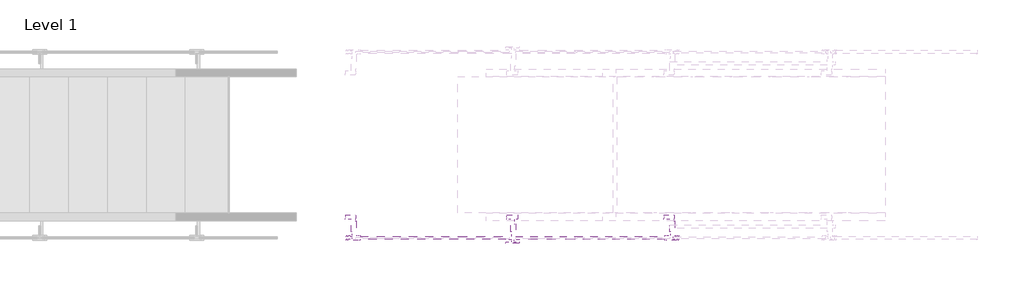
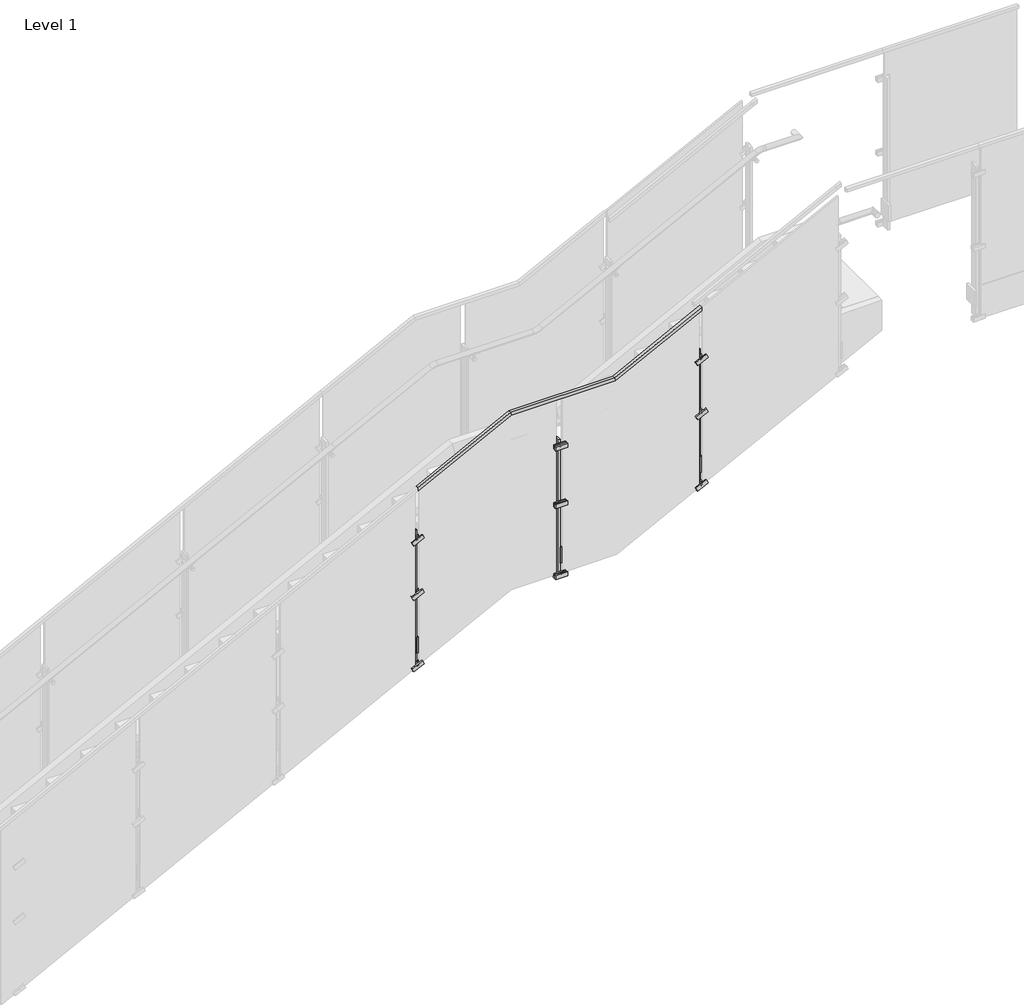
# One storey, part 33 of 37: 1 railing.
"""IFC4 building model written with IfcOpenShell, lengths in millimetres."""

from ifc_helpers import new_model, si_unit, point, frame, frame_2d, origin, place, context, project, spatial, polyline, circle_curve, trimmed, segment, composite_curve, outline, extrude, faceted_brep, element, save

model = new_model("IFC4")

# Units and contexts
model_context = context("Model", 3, world=origin())
ifc_project = project(units=[si_unit("LENGTHUNIT", "METRE", prefix="MILLI")], contexts=[model_context])

# Site, building, storey
site = spatial("IfcSite", under=ifc_project)
building = spatial("IfcBuilding", under=site)
storey = spatial("IfcBuildingStorey", under=building, Name="Level 1", Elevation=0.0)

# Railing
placement = place(None, origin())
element("IfcRailing", 1, ObjectType="VIVA-SOLO-Glass-Fascia Mount-Stair-A1-Landing", at=placement, inside=storey, context=model_context, shape_type="SolidModel", body=[
    faceted_brep([(4578.4721922, 32501.3406645, 2882.4016967), (4578.4721922, 32523.5656645, 2882.4016967), (4578.4721922, 32523.5656645, 2853.9005081), (4578.4721922, 32518.8031645, 2853.9005081), (4578.4721922, 32518.8031645, 2877.0577238), (4578.4721922, 32506.1031645, 2877.0577238), (4578.4721922, 32506.1031645, 2853.9005081), (4578.4721922, 32501.3406645, 2853.9005081), (5276.9721922, 32501.3406645, 3237.9478261), (5276.9721922, 32523.5656645, 3237.9478261), (5283.0647357, 32523.5656645, 3212.5478261), (5283.0647357, 32518.8031645, 3212.5478261), (5278.1145441, 32518.8031645, 3233.1853261), (5278.1145441, 32506.1031645, 3233.1853261), (5283.0647357, 32506.1031645, 3212.5478261), (5283.0647357, 32501.3406645, 3212.5478261), (6058.0221922, 32501.3406645, 3237.9478261), (6058.0221922, 32523.5656645, 3237.9478261), (6064.1147357, 32523.5656645, 3212.5478261), (6064.1147357, 32518.8031645, 3212.5478261), (6059.1645441, 32518.8031645, 3233.1853261), (6059.1645441, 32506.1031645, 3233.1853261), (6064.1147357, 32506.1031645, 3212.5478261), (6064.1147357, 32501.3406645, 3212.5478261), (6712.0721922, 32501.3406645, 3570.8682927), (6712.0721922, 32501.3406645, 3542.3671041), (6712.0721922, 32506.1031645, 3542.3671041), (6712.0721922, 32506.1031645, 3565.5243198), (6712.0721922, 32518.8031645, 3565.5243198), (6712.0721922, 32518.8031645, 3542.3671041), (6712.0721922, 32523.5656645, 3542.3671041), (6712.0721922, 32523.5656645, 3570.8682927)], [[[0, 1, 2, 3, 4, 5, 6, 7]], [[1, 0, 8, 9]], [[2, 1, 9, 10]], [[3, 2, 10, 11]], [[4, 3, 11, 12]], [[5, 4, 12, 13]], [[6, 5, 13, 14]], [[7, 6, 14, 15]], [[0, 7, 15, 8]], [[9, 8, 16, 17]], [[10, 9, 17, 18]], [[11, 10, 18, 19]], [[12, 11, 19, 20]], [[13, 12, 20, 21]], [[14, 13, 21, 22]], [[15, 14, 22, 23]], [[8, 15, 23, 16]], [[24, 25, 26, 27, 28, 29, 30, 31]], [[17, 16, 24, 31]], [[18, 17, 31, 30]], [[19, 18, 30, 29]], [[20, 19, 29, 28]], [[21, 20, 28, 27]], [[22, 21, 27, 26]], [[23, 22, 26, 25]], [[16, 23, 25, 24]]]),
    extrude(outline(composite_curve([segment(trimmed(circle_curve(frame_2d((0.0, -7.0)), 7.0), [point((0.0, -14.0))], [point((0.0, 0.0))], False, "CARTESIAN"), True, "CONTINUOUS"), segment(trimmed(circle_curve(frame_2d((0.0, -7.0)), 7.0), [point((0.0, 0.0))], [point((0.0, -14.0))], False, "CARTESIAN"), True, "CONTINUOUS")], self_intersect=False)), frame((5645.6746913, 32644.6306015, 2843.8026165), z_axis=(-0.007954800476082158, 0.0, 0.9999683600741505), x_axis=(-0.9999683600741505, 0.0, -0.007954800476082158)), (0.0, 0.0, 1.0), 51.0401258),
    extrude(outline(composite_curve([segment(trimmed(circle_curve(frame_2d((32652.9626305, 2916.7137449)), 19.05), [point((32639.4330423, 2903.3028261))], [point((32666.4922188, 2903.3028261))], True, "CARTESIAN"), True, "CONTINUOUS"), segment(polyline([(32666.4922188, 2903.3028261), (32667.5186084, 2902.285439)]), True, "CONTINUOUS"), segment(trimmed(circle_curve(frame_2d((32666.4626305, 2901.2201171)), 1.5), [point((32667.5186084, 2902.285439))], [point((32667.448032, 2900.0891954))], False, "CARTESIAN"), True, "CONTINUOUS"), segment(trimmed(circle_curve(frame_2d((32652.9626305, 2916.7137449)), 22.05), [point((32667.448032, 2900.0891954))], [point((32638.4772291, 2900.0891954))], False, "CARTESIAN"), True, "CONTINUOUS"), segment(trimmed(circle_curve(frame_2d((32639.4626305, 2901.2201171)), 1.5), [point((32638.4772291, 2900.0891954))], [point((32638.4066527, 2902.285439))], False, "CARTESIAN"), True, "CONTINUOUS"), segment(polyline([(32638.4066527, 2902.285439), (32639.4330423, 2903.3028261)]), True, "CONTINUOUS")], self_intersect=False)), frame((5606.576729, 0.0, 0.0), z_axis=(1.0, 0.0, 0.0), x_axis=(0.0, 1.0, 0.0)), (0.0, 0.0, 1.0), 74.5229187),
    extrude(outline(composite_curve([segment(trimmed(circle_curve(frame_2d((2858.2194241, 5645.3910269)), 12.5), [point((2858.2194241, 5657.8910269))], [point((2858.2194241, 5632.8910269))], False, "CARTESIAN"), True, "CONTINUOUS"), segment(trimmed(circle_curve(frame_2d((2858.2194241, 5645.3910269)), 12.5), [point((2858.2194241, 5632.8910269))], [point((2858.2194241, 5657.8910269))], False, "CARTESIAN"), True, "CONTINUOUS")], self_intersect=False)), frame((0.0, 32552.6082406, 0.0), z_axis=(0.0, 1.0, 0.0), x_axis=(0.0, 0.0, 1.0)), (0.0, 0.0, 1.0), 112.87),
    extrude(outline(polyline([(5665.1159422, 32507.8176645), (5651.6221922, 32507.8176645), (5651.6221922, 32607.8301645), (5665.1159422, 32607.8301645), (5665.1159422, 32507.8176645)])), frame((0.0, 0.0, 1904.4478261), z_axis=(0.0, 0.0, 1.0), x_axis=(1.0, 0.0, 0.0)), (0.0, 0.0, 1.0), 127.0),
    extrude(outline(polyline([(5651.6221922, 32507.8176645), (5638.9221922, 32507.8176645), (5638.9221922, 32571.3176645), (5651.6221922, 32571.3176645), (5651.6221922, 32507.8176645)])), frame((0.0, 0.0, 1809.5242307), z_axis=(0.0, 0.0, 1.0), x_axis=(1.0, 0.0, 0.0)), (0.0, 0.0, 1.0), 1077.9740667),
    extrude(outline(polyline([(5600.8221922, 32498.2926645), (5600.8221922, 32507.8176645), (5689.7221922, 32507.8176645), (5689.7221922, 32498.2926645), (5600.8221922, 32498.2926645)])), frame((0.0, 0.0, 1809.492795), z_axis=(0.0, 0.0, 1.0), x_axis=(1.0, 0.0, 0.0)), (0.0, 0.0, 1.0), 31.75),
    extrude(outline(polyline([(5600.8221922, 32476.0676645), (5600.8221922, 32485.5926645), (5689.7221922, 32485.5926645), (5689.7221922, 32476.0676645), (5600.8221922, 32476.0676645)])), frame((0.0, 0.0, 1809.492795), z_axis=(0.0, 0.0, 1.0), x_axis=(1.0, 0.0, 0.0)), (0.0, 0.0, 1.0), 31.75),
    extrude(outline(polyline([(5600.8221922, 32498.2926645), (5600.8221922, 32507.8176645), (5689.7221922, 32507.8176645), (5689.7221922, 32498.2926645), (5600.8221922, 32498.2926645)])), frame((0.0, 0.0, 2372.3388955), z_axis=(0.0, 0.0, 1.0), x_axis=(1.0, 0.0, 0.0)), (0.0, 0.0, 1.0), 31.75),
    extrude(outline(polyline([(5600.8221922, 32498.2926645), (5600.8221922, 32507.8176645), (5689.7221922, 32507.8176645), (5689.7221922, 32498.2926645), (5600.8221922, 32498.2926645)])), frame((0.0, 0.0, 2831.6470448), z_axis=(0.0, 0.0, 1.0), x_axis=(1.0, 0.0, 0.0)), (0.0, 0.0, 1.0), 31.75),
    extrude(outline(polyline([(5600.8221922, 32476.0676645), (5600.8221922, 32485.5926645), (5689.7221922, 32485.5926645), (5689.7221922, 32476.0676645), (5600.8221922, 32476.0676645)])), frame((0.0, 0.0, 2372.3388955), z_axis=(0.0, 0.0, 1.0), x_axis=(1.0, 0.0, 0.0)), (0.0, 0.0, 1.0), 31.75),
    extrude(outline(polyline([(5600.8221922, 32476.0676645), (5600.8221922, 32485.5926645), (5689.7221922, 32485.5926645), (5689.7221922, 32476.0676645), (5600.8221922, 32476.0676645)])), frame((0.0, 0.0, 2831.6470448), z_axis=(0.0, 0.0, 1.0), x_axis=(1.0, 0.0, 0.0)), (0.0, 0.0, 1.0), 31.75),
    extrude(outline(composite_curve([segment(trimmed(circle_curve(frame_2d((1825.7648458, 5645.2632311)), 6.35), [point((1825.7648458, 5651.6132311))], [point((1825.7648458, 5638.9132311))], False, "CARTESIAN"), True, "CONTINUOUS"), segment(trimmed(circle_curve(frame_2d((1825.7648458, 5645.2632311)), 6.35), [point((1825.7648458, 5638.9132311))], [point((1825.7648458, 5651.6132311))], False, "CARTESIAN"), True, "CONTINUOUS")], self_intersect=False)), frame((0.0, 32485.5926645, 0.0), z_axis=(0.0, 1.0, 0.0), x_axis=(0.0, 0.0, 1.0)), (0.0, 0.0, 1.0), 12.7),
    extrude(outline(composite_curve([segment(trimmed(circle_curve(frame_2d((2388.2138955, 5645.2721922)), 6.35), [point((2388.2138955, 5651.6221922))], [point((2388.2138955, 5638.9221922))], False, "CARTESIAN"), True, "CONTINUOUS"), segment(trimmed(circle_curve(frame_2d((2388.2138955, 5645.2721922)), 6.35), [point((2388.2138955, 5638.9221922))], [point((2388.2138955, 5651.6221922))], False, "CARTESIAN"), True, "CONTINUOUS")], self_intersect=False)), frame((0.0, 32485.5926645, 0.0), z_axis=(0.0, 1.0, 0.0), x_axis=(0.0, 0.0, 1.0)), (0.0, 0.0, 1.0), 12.7),
    extrude(outline(composite_curve([segment(trimmed(circle_curve(frame_2d((2847.5220448, 5645.2721922)), 6.35), [point((2847.5220448, 5651.6221922))], [point((2847.5220448, 5638.9221922))], False, "CARTESIAN"), True, "CONTINUOUS"), segment(trimmed(circle_curve(frame_2d((2847.5220448, 5645.2721922)), 6.35), [point((2847.5220448, 5638.9221922))], [point((2847.5220448, 5651.6221922))], False, "CARTESIAN"), True, "CONTINUOUS")], self_intersect=False)), frame((0.0, 32485.5926645, 0.0), z_axis=(0.0, 1.0, 0.0), x_axis=(0.0, 0.0, 1.0)), (0.0, 0.0, 1.0), 12.7),
    extrude(outline(composite_curve([segment(trimmed(circle_curve(frame_2d((0.0, -7.0)), 7.0), [point((0.0, -14.0))], [point((0.0, 0.0))], False, "CARTESIAN"), True, "CONTINUOUS"), segment(trimmed(circle_curve(frame_2d((0.0, -7.0)), 7.0), [point((0.0, 0.0))], [point((0.0, -14.0))], False, "CARTESIAN"), True, "CONTINUOUS")], self_intersect=False)), frame((6718.6586852, 32644.6306015, 3141.7737288), z_axis=(-0.4457291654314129, 0.0, 0.8951678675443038), x_axis=(-0.8951678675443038, 0.0, -0.4457291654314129)), (0.0, 0.0, 1.0), 50.5982576),
    extrude(outline(composite_curve([segment(trimmed(circle_curve(frame_2d((3154.576087, 6712.1910269)), 12.5), [point((3154.576087, 6724.6910269))], [point((3154.576087, 6699.6910269))], False, "CARTESIAN"), True, "CONTINUOUS"), segment(trimmed(circle_curve(frame_2d((3154.576087, 6712.1910269)), 12.5), [point((3154.576087, 6699.6910269))], [point((3154.576087, 6724.6910269))], False, "CARTESIAN"), True, "CONTINUOUS")], self_intersect=False)), frame((0.0, 32552.6082406, 0.0), z_axis=(0.0, 1.0, 0.0), x_axis=(0.0, 0.0, 1.0)), (0.0, 0.0, 1.0), 112.87),
    extrude(outline(composite_curve([segment(trimmed(circle_curve(frame_2d((18.6575251, 0.3952034)), 19.05), [point((5.2466064, 13.9247916))], [point((5.2466064, -13.1343849))], True, "CARTESIAN"), True, "CONTINUOUS"), segment(polyline([(5.2466064, -13.1343849), (4.2292193, -14.1607745)]), True, "CONTINUOUS"), segment(trimmed(circle_curve(frame_2d((3.1638974, -13.1047966)), 1.5), [point((4.2292193, -14.1607745))], [point((2.0329757, -14.0901981))], False, "CARTESIAN"), True, "CONTINUOUS"), segment(trimmed(circle_curve(frame_2d((18.6575251, 0.3952034)), 22.05), [point((2.0329757, -14.0901981))], [point((2.0329757, 14.8806048))], False, "CARTESIAN"), True, "CONTINUOUS"), segment(trimmed(circle_curve(frame_2d((3.1638974, 13.8952034)), 1.5), [point((2.0329757, 14.8806048))], [point((4.2292193, 14.9511812))], False, "CARTESIAN"), True, "CONTINUOUS"), segment(polyline([(4.2292193, 14.9511812), (5.2466064, 13.9247916)]), True, "CONTINUOUS")], self_intersect=False)), frame((6659.9811368, 32653.3578339, 3172.8591647), z_axis=(0.8952329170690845, 0.0, 0.44559850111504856), x_axis=(-0.44559850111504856, 0.0, 0.8952329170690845)), (0.0, 0.0, 1.0), 74.5229187),
    extrude(outline(polyline([(6731.9159422, 32528.4551645), (6718.4221922, 32528.4551645), (6718.4221922, 32628.4676645), (6731.9159422, 32628.4676645), (6731.9159422, 32528.4551645)])), frame((0.0, 0.0, 2237.3682927), z_axis=(0.0, 0.0, 1.0), x_axis=(1.0, 0.0, 0.0)), (0.0, 0.0, 1.0), 127.0),
    extrude(outline(polyline([(6718.4221922, 32528.4551645), (6705.7221922, 32528.4551645), (6705.7221922, 32591.9551645), (6718.4221922, 32591.9551645), (6718.4221922, 32528.4551645)])), frame((0.0, 0.0, 2142.4446973), z_axis=(0.0, 0.0, 1.0), x_axis=(1.0, 0.0, 0.0)), (0.0, 0.0, 1.0), 1077.9740667),
    extrude(outline(polyline([(0.0, 88.9), (9.525, 88.9), (9.525, 0.0), (0.0, 0.0), (0.0, 88.9)])), frame((6758.9737684, 32518.9301645, 2160.6605743), z_axis=(-0.4383711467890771, 0.0, 0.8987940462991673), x_axis=(0.0, 1.0, 0.0)), (0.0, 0.0, 1.0), 31.75),
    extrude(outline(polyline([(0.0, 88.9), (9.525, 88.9), (9.525, 0.0), (0.0, 0.0), (0.0, 88.9)])), frame((6758.9737684, 32496.7051645, 2160.6605743), z_axis=(-0.43837114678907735, 0.0, 0.8987940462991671), x_axis=(0.0, 1.0, 0.0)), (0.0, 0.0, 1.0), 31.75),
    extrude(outline(polyline([(0.0, 88.9), (9.525, 88.9), (9.525, 0.0), (0.0, 0.0), (0.0, 88.9)])), frame((6758.9737684, 32518.9301645, 2727.8547962), z_axis=(-0.4383711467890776, 0.0, 0.8987940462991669), x_axis=(0.0, 1.0, 0.0)), (0.0, 0.0, 1.0), 31.75),
    extrude(outline(polyline([(0.0, 88.9), (9.525, 88.9), (9.525, 0.0), (0.0, 0.0), (0.0, 88.9)])), frame((6758.9737684, 32496.7051645, 3159.1178087), z_axis=(-0.4383711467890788, 0.0, 0.8987940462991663), x_axis=(0.0, 1.0, 0.0)), (0.0, 0.0, 1.0), 31.75),
    extrude(outline(polyline([(0.0, 88.9), (9.525, 88.9), (9.525, 0.0), (0.0, 0.0), (0.0, 88.9)])), frame((6758.9737684, 32518.9301645, 3159.1178087), z_axis=(-0.4383711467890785, 0.0, 0.8987940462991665), x_axis=(0.0, 1.0, 0.0)), (0.0, 0.0, 1.0), 31.75),
    extrude(outline(polyline([(0.0, 88.9), (9.525, 88.9), (9.525, 0.0), (0.0, 0.0), (0.0, 88.9)])), frame((6758.9737684, 32496.7051645, 2727.8547962), z_axis=(-0.438371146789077, 0.0, 0.8987940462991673), x_axis=(0.0, 1.0, 0.0)), (0.0, 0.0, 1.0), 31.75),
    extrude(outline(composite_curve([segment(trimmed(circle_curve(frame_2d((2159.1850549, 6712.0632311)), 6.35), [point((2159.1850549, 6718.4132311))], [point((2159.1850549, 6705.7132311))], False, "CARTESIAN"), True, "CONTINUOUS"), segment(trimmed(circle_curve(frame_2d((2159.1850549, 6712.0632311)), 6.35), [point((2159.1850549, 6705.7132311))], [point((2159.1850549, 6718.4132311))], False, "CARTESIAN"), True, "CONTINUOUS")], self_intersect=False)), frame((0.0, 32498.2926645, 0.0), z_axis=(0.0, 1.0, 0.0), x_axis=(0.0, 0.0, 1.0)), (0.0, 0.0, 1.0), 7.9375),
    extrude(outline(composite_curve([segment(trimmed(circle_curve(frame_2d((2719.723859, 6712.0632311)), 6.35), [point((2719.723859, 6718.4132311))], [point((2719.723859, 6705.7132311))], False, "CARTESIAN"), True, "CONTINUOUS"), segment(trimmed(circle_curve(frame_2d((2719.723859, 6712.0632311)), 6.35), [point((2719.723859, 6705.7132311))], [point((2719.723859, 6718.4132311))], False, "CARTESIAN"), True, "CONTINUOUS")], self_intersect=False)), frame((0.0, 32506.2301645, 0.0), z_axis=(0.0, 1.0, 0.0), x_axis=(0.0, 0.0, 1.0)), (0.0, 0.0, 1.0), 12.7),
    extrude(outline(composite_curve([segment(trimmed(circle_curve(frame_2d((3153.906802, 6712.0632311)), 6.35), [point((3153.906802, 6718.4132311))], [point((3153.906802, 6705.7132311))], False, "CARTESIAN"), True, "CONTINUOUS"), segment(trimmed(circle_curve(frame_2d((3153.906802, 6712.0632311)), 6.35), [point((3153.906802, 6705.7132311))], [point((3153.906802, 6718.4132311))], False, "CARTESIAN"), True, "CONTINUOUS")], self_intersect=False)), frame((0.0, 32506.2301645, 0.0), z_axis=(0.0, 1.0, 0.0), x_axis=(0.0, 0.0, 1.0)), (0.0, 0.0, 1.0), 12.7),
    extrude(outline(composite_curve([segment(trimmed(circle_curve(frame_2d((0.0, -7.0)), 7.0), [point((0.0, -14.0))], [point((0.0, 0.0))], False, "CARTESIAN"), True, "CONTINUOUS"), segment(trimmed(circle_curve(frame_2d((0.0, -7.0)), 7.0), [point((0.0, 0.0))], [point((0.0, -14.0))], False, "CARTESIAN"), True, "CONTINUOUS")], self_intersect=False)), frame((4585.0586852, 32644.6306015, 2453.3071328), z_axis=(-0.4457291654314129, 0.0, 0.8951678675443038), x_axis=(-0.8951678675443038, 0.0, -0.4457291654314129)), (0.0, 0.0, 1.0), 50.5982576),
    extrude(outline(composite_curve([segment(trimmed(circle_curve(frame_2d((2466.109491, 4578.5910269)), 12.5), [point((2466.109491, 4591.0910269))], [point((2466.109491, 4566.0910269))], False, "CARTESIAN"), True, "CONTINUOUS"), segment(trimmed(circle_curve(frame_2d((2466.109491, 4578.5910269)), 12.5), [point((2466.109491, 4566.0910269))], [point((2466.109491, 4591.0910269))], False, "CARTESIAN"), True, "CONTINUOUS")], self_intersect=False)), frame((0.0, 32552.6082406, 0.0), z_axis=(0.0, 1.0, 0.0), x_axis=(0.0, 0.0, 1.0)), (0.0, 0.0, 1.0), 112.87),
    extrude(outline(composite_curve([segment(trimmed(circle_curve(frame_2d((18.6575251, 0.3952034)), 19.05), [point((5.2466064, 13.9247916))], [point((5.2466064, -13.1343849))], True, "CARTESIAN"), True, "CONTINUOUS"), segment(polyline([(5.2466064, -13.1343849), (4.2292193, -14.1607745)]), True, "CONTINUOUS"), segment(trimmed(circle_curve(frame_2d((3.1638974, -13.1047966)), 1.5), [point((4.2292193, -14.1607745))], [point((2.0329757, -14.0901981))], False, "CARTESIAN"), True, "CONTINUOUS"), segment(trimmed(circle_curve(frame_2d((18.6575251, 0.3952034)), 22.05), [point((2.0329757, -14.0901981))], [point((2.0329757, 14.8806048))], False, "CARTESIAN"), True, "CONTINUOUS"), segment(trimmed(circle_curve(frame_2d((3.1638974, 13.8952034)), 1.5), [point((2.0329757, 14.8806048))], [point((4.2292193, 14.9511812))], False, "CARTESIAN"), True, "CONTINUOUS"), segment(polyline([(4.2292193, 14.9511812), (5.2466064, 13.9247916)]), True, "CONTINUOUS")], self_intersect=False)), frame((4526.3811368, 32653.3578339, 2484.3925687), z_axis=(0.8952329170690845, 0.0, 0.44559850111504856), x_axis=(-0.44559850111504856, 0.0, 0.8952329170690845)), (0.0, 0.0, 1.0), 74.5229187),
    extrude(outline(polyline([(4598.3159422, 32528.4551645), (4584.8221922, 32528.4551645), (4584.8221922, 32628.4676645), (4598.3159422, 32628.4676645), (4598.3159422, 32528.4551645)])), frame((0.0, 0.0, 1548.9016967), z_axis=(0.0, 0.0, 1.0), x_axis=(1.0, 0.0, 0.0)), (0.0, 0.0, 1.0), 127.0),
    extrude(outline(polyline([(4584.8221922, 32528.4551645), (4572.1221922, 32528.4551645), (4572.1221922, 32591.9551645), (4584.8221922, 32591.9551645), (4584.8221922, 32528.4551645)])), frame((0.0, 0.0, 1453.9781013), z_axis=(0.0, 0.0, 1.0), x_axis=(1.0, 0.0, 0.0)), (0.0, 0.0, 1.0), 1077.9740667),
    extrude(outline(polyline([(0.0, 88.9), (9.525, 88.9), (9.525, 0.0), (0.0, 0.0), (0.0, 88.9)])), frame((4625.3737684, 32518.9301645, 1472.1939783), z_axis=(-0.4383711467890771, 0.0, 0.8987940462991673), x_axis=(0.0, 1.0, 0.0)), (0.0, 0.0, 1.0), 31.75),
    extrude(outline(polyline([(0.0, 88.9), (9.525, 88.9), (9.525, 0.0), (0.0, 0.0), (0.0, 88.9)])), frame((4625.3737684, 32496.7051645, 1472.1939783), z_axis=(-0.43837114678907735, 0.0, 0.8987940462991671), x_axis=(0.0, 1.0, 0.0)), (0.0, 0.0, 1.0), 31.75),
    extrude(outline(polyline([(0.0, 88.9), (9.525, 88.9), (9.525, 0.0), (0.0, 0.0), (0.0, 88.9)])), frame((4625.3737684, 32518.9301645, 2039.3882002), z_axis=(-0.4383711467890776, 0.0, 0.8987940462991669), x_axis=(0.0, 1.0, 0.0)), (0.0, 0.0, 1.0), 31.75),
    extrude(outline(polyline([(0.0, 88.9), (9.525, 88.9), (9.525, 0.0), (0.0, 0.0), (0.0, 88.9)])), frame((4625.3737684, 32496.7051645, 2470.6512127), z_axis=(-0.4383711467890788, 0.0, 0.8987940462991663), x_axis=(0.0, 1.0, 0.0)), (0.0, 0.0, 1.0), 31.75),
    extrude(outline(polyline([(0.0, 88.9), (9.525, 88.9), (9.525, 0.0), (0.0, 0.0), (0.0, 88.9)])), frame((4625.3737684, 32518.9301645, 2470.6512127), z_axis=(-0.4383711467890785, 0.0, 0.8987940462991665), x_axis=(0.0, 1.0, 0.0)), (0.0, 0.0, 1.0), 31.75),
    extrude(outline(polyline([(0.0, 88.9), (9.525, 88.9), (9.525, 0.0), (0.0, 0.0), (0.0, 88.9)])), frame((4625.3737684, 32496.7051645, 2039.3882002), z_axis=(-0.438371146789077, 0.0, 0.8987940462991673), x_axis=(0.0, 1.0, 0.0)), (0.0, 0.0, 1.0), 31.75),
    extrude(outline(composite_curve([segment(trimmed(circle_curve(frame_2d((1470.718459, 4578.4632311)), 6.35), [point((1470.718459, 4584.8132311))], [point((1470.718459, 4572.1132311))], False, "CARTESIAN"), True, "CONTINUOUS"), segment(trimmed(circle_curve(frame_2d((1470.718459, 4578.4632311)), 6.35), [point((1470.718459, 4572.1132311))], [point((1470.718459, 4584.8132311))], False, "CARTESIAN"), True, "CONTINUOUS")], self_intersect=False)), frame((0.0, 32498.2926645, 0.0), z_axis=(0.0, 1.0, 0.0), x_axis=(0.0, 0.0, 1.0)), (0.0, 0.0, 1.0), 7.9375),
    extrude(outline(composite_curve([segment(trimmed(circle_curve(frame_2d((2031.2572631, 4578.4632311)), 6.35), [point((2031.2572631, 4584.8132311))], [point((2031.2572631, 4572.1132311))], False, "CARTESIAN"), True, "CONTINUOUS"), segment(trimmed(circle_curve(frame_2d((2031.2572631, 4578.4632311)), 6.35), [point((2031.2572631, 4572.1132311))], [point((2031.2572631, 4584.8132311))], False, "CARTESIAN"), True, "CONTINUOUS")], self_intersect=False)), frame((0.0, 32506.2301645, 0.0), z_axis=(0.0, 1.0, 0.0), x_axis=(0.0, 0.0, 1.0)), (0.0, 0.0, 1.0), 12.7),
    extrude(outline(composite_curve([segment(trimmed(circle_curve(frame_2d((2465.440206, 4578.4632311)), 6.35), [point((2465.440206, 4584.8132311))], [point((2465.440206, 4572.1132311))], False, "CARTESIAN"), True, "CONTINUOUS"), segment(trimmed(circle_curve(frame_2d((2465.440206, 4578.4632311)), 6.35), [point((2465.440206, 4572.1132311))], [point((2465.440206, 4584.8132311))], False, "CARTESIAN"), True, "CONTINUOUS")], self_intersect=False)), frame((0.0, 32506.2301645, 0.0), z_axis=(0.0, 1.0, 0.0), x_axis=(0.0, 0.0, 1.0)), (0.0, 0.0, 1.0), 12.7),
])

save(model, "model.ifc")
